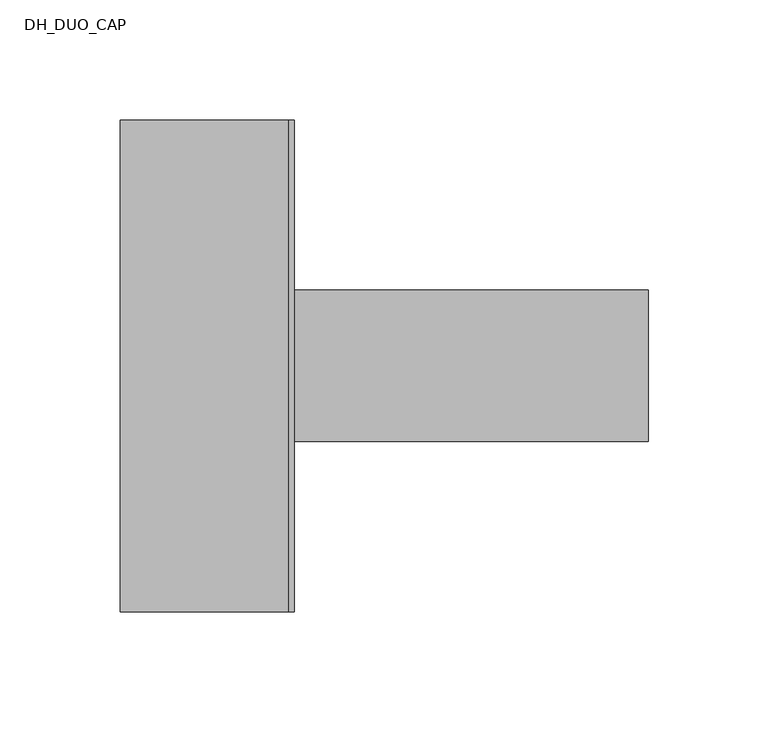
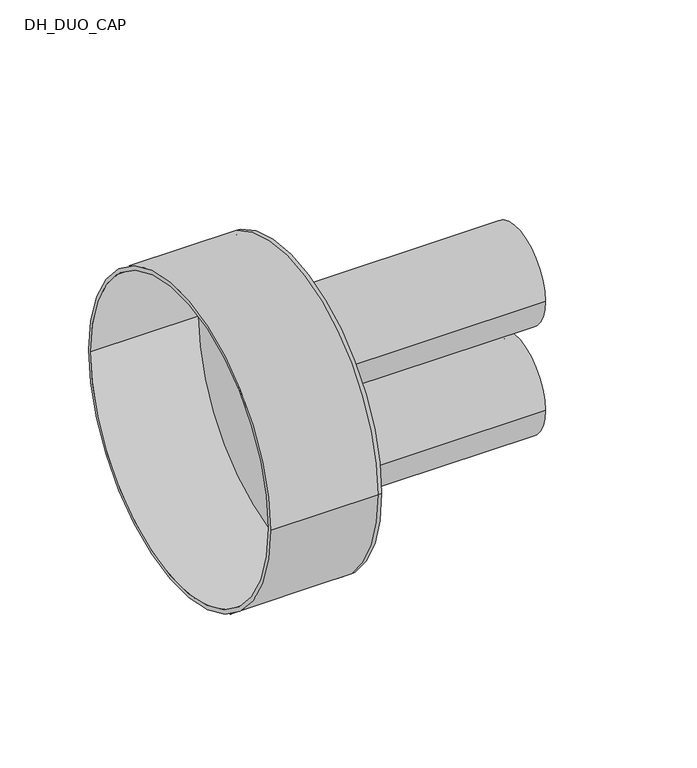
"""IFC4 building model written with IfcOpenShell, lengths in millimetres: pipe fitting geometry, DH_DUO_CAP : RAUVIPEX DUO 11 Heating - Solid Cap."""

from ifc_helpers import new_model, si_unit, point, frame, frame_2d, origin, place, context, project, spatial, polyline, circle_curve, trimmed, segment, composite_curve, outline, extrude, source, transform, mapped, element, save
from ifc_brep_helpers import plane_surface, cylinder_surface, revolved_surface, advanced_brep


def dh_duo_cap_e9755894(model_context):
    return source(origin(), model_context, "Body", "SolidModel", [
        extrude(outline(composite_curve([segment(trimmed(circle_curve(frame_2d((0.0, -37.5)), 31.5), [point((-31.5, -37.5))], [point((31.5, -37.5))], False, "CARTESIAN"), True, "CONTINUOUS"), segment(trimmed(circle_curve(frame_2d((0.0, -37.5)), 31.5), [point((31.5, -37.5))], [point((-31.5, -37.5))], False, "CARTESIAN"), True, "CONTINUOUS")], self_intersect=False), holes=[composite_curve([segment(trimmed(circle_curve(frame_2d((0.0, -37.5)), 25.7), [point((-25.7, -37.5))], [point((25.7, -37.5))], True, "CARTESIAN"), True, "CONTINUOUS"), segment(trimmed(circle_curve(frame_2d((0.0, -37.5)), 25.7), [point((25.7, -37.5))], [point((-25.7, -37.5))], True, "CARTESIAN"), True, "CONTINUOUS")], self_intersect=False)]), frame((0.0, 0.0, 0.0), z_axis=(1.0, 0.0, 0.0), x_axis=(0.0, 1.0, 0.0)), (0.0, 0.0, 1.0), 150.0),
        extrude(outline(composite_curve([segment(trimmed(circle_curve(frame_2d((0.0, 37.5)), 31.5), [point((-31.5, 37.5))], [point((31.5, 37.5))], False, "CARTESIAN"), True, "CONTINUOUS"), segment(trimmed(circle_curve(frame_2d((0.0, 37.5)), 31.5), [point((31.5, 37.5))], [point((-31.5, 37.5))], False, "CARTESIAN"), True, "CONTINUOUS")], self_intersect=False), holes=[composite_curve([segment(trimmed(circle_curve(frame_2d((0.0, 37.5)), 25.7), [point((-25.7, 37.5))], [point((25.7, 37.5))], True, "CARTESIAN"), True, "CONTINUOUS"), segment(trimmed(circle_curve(frame_2d((0.0, 37.5)), 25.7), [point((25.7, 37.5))], [point((-25.7, 37.5))], True, "CARTESIAN"), True, "CONTINUOUS")], self_intersect=False)]), frame((0.0, 0.0, 0.0), z_axis=(1.0, 0.0, 0.0), x_axis=(0.0, 1.0, 0.0)), (0.0, 0.0, 1.0), 150.0),
        advanced_brep(
        [(-70.0, -102.5, 0.0), (-70.0, 102.5, 0.0), (-70.0, -100.0, 0.0), (-70.0, 100.0, 0.0), (0.0, -100.0, 0.0), (0.0, 100.0, 0.0), (0.0, -102.5, 0.0), (0.0, 102.5, 0.0), (0.0, 31.5, 37.5), (0.0, -31.5, 37.5), (0.0, 31.5, -37.5), (0.0, -31.5, -37.5), (2.5, -102.5, 0.0), (2.5, 102.5, 0.0), (2.5, -31.5, 37.5), (2.5, 31.5, 37.5), (2.5, -31.5, -37.5), (2.5, 31.5, -37.5)],
        [
            (0, 1, circle_curve(frame((-70.0, 0.0, 0.0), z_axis=(-1.0, 0.0, 0.0), x_axis=(0.0, 1.0, 0.0)), 102.5)),
            (1, 0, circle_curve(frame((-70.0, 0.0, 0.0), z_axis=(-1.0, 0.0, 0.0), x_axis=(0.0, 1.0, 0.0)), 102.5)),
            (2, 3, circle_curve(frame((-70.0, 0.0, 0.0), z_axis=(1.0, 0.0, 0.0), x_axis=(0.0, 1.0, 0.0)), 100.0)),
            (3, 2, circle_curve(frame((-70.0, 0.0, 0.0), z_axis=(1.0, 0.0, 0.0), x_axis=(0.0, 1.0, 0.0)), 100.0)),
            (2, 4),
            (4, 5, circle_curve(frame((0.0, 0.0, 0.0), z_axis=(1.0, 0.0, 0.0), x_axis=(0.0, 1.0, 0.0)), 100.0)),
            (5, 3),
            (5, 4, circle_curve(frame((0.0, 0.0, 0.0), z_axis=(1.0, 0.0, 0.0), x_axis=(0.0, 1.0, 0.0)), 100.0)),
            (0, 6),
            (6, 7, circle_curve(frame((0.0, 0.0, 0.0), z_axis=(-1.0, 0.0, 0.0), x_axis=(0.0, 1.0, 0.0)), 102.5)),
            (7, 1),
            (7, 6, circle_curve(frame((0.0, 0.0, 0.0), z_axis=(-1.0, 0.0, 0.0), x_axis=(0.0, 1.0, 0.0)), 102.5)),
            (8, 9, circle_curve(frame((0.0, 0.0, 37.5), z_axis=(1.0, 0.0, 0.0), x_axis=(0.0, 1.0, 0.0)), 31.5)),
            (9, 8, circle_curve(frame((0.0, 0.0, 37.5), z_axis=(1.0, 0.0, 0.0), x_axis=(0.0, 1.0, 0.0)), 31.5)),
            (10, 11, circle_curve(frame((0.0, 0.0, -37.5), z_axis=(1.0, 0.0, 0.0), x_axis=(0.0, 1.0, 0.0)), 31.5)),
            (11, 10, circle_curve(frame((0.0, 0.0, -37.5), z_axis=(1.0, 0.0, 0.0), x_axis=(0.0, 1.0, 0.0)), 31.5)),
            (12, 13, circle_curve(frame((2.5, 0.0, 0.0), z_axis=(1.0, 0.0, 0.0), x_axis=(0.0, 1.0, 0.0)), 102.5)),
            (13, 12, circle_curve(frame((2.5, 0.0, 0.0), z_axis=(1.0, 0.0, 0.0), x_axis=(0.0, 1.0, 0.0)), 102.5)),
            (14, 15, circle_curve(frame((2.5, 0.0, 37.5), z_axis=(-1.0, 0.0, 0.0), x_axis=(0.0, 1.0, 0.0)), 31.5)),
            (15, 14, circle_curve(frame((2.5, 0.0, 37.5), z_axis=(-1.0, 0.0, 0.0), x_axis=(0.0, 1.0, 0.0)), 31.5)),
            (16, 17, circle_curve(frame((2.5, 0.0, -37.5), z_axis=(-1.0, 0.0, 0.0), x_axis=(0.0, 1.0, 0.0)), 31.5)),
            (17, 16, circle_curve(frame((2.5, 0.0, -37.5), z_axis=(-1.0, 0.0, 0.0), x_axis=(0.0, 1.0, 0.0)), 31.5)),
            (13, 7),
            (6, 12),
            (8, 15),
            (14, 9),
            (10, 17),
            (16, 11),
        ],
        [
            plane_surface(frame((-70.0, 0.0, 0.0), z_axis=(-1.0, 0.0, 0.0), x_axis=(0.0, 0.0, 1.0))),
            revolved_surface(polyline([(0.0, 100.0, 0.0), (-70.0, 100.0, 0.0)]), (-70.0, 0.0, 0.0), (1.0, 0.0, 0.0)),
            cylinder_surface(frame((-70.0, 0.0, 0.0), z_axis=(-1.0, 0.0, 0.0), x_axis=(0.0, 1.0, 0.0)), 102.5),
            plane_surface(frame((0.0, 0.0, 0.0), z_axis=(-1.0, 0.0, 0.0), x_axis=(0.0, 0.0, 1.0))),
            plane_surface(frame((2.5, 0.0, 0.0), z_axis=(1.0, 0.0, 0.0), x_axis=(0.0, 0.0, 1.0))),
            cylinder_surface(frame((0.0, 0.0, 0.0), z_axis=(-1.0, 0.0, 0.0), x_axis=(0.0, 1.0, 0.0)), 102.5),
            revolved_surface(polyline([(0.0, 31.5, 37.5), (2.5, 31.5, 37.5)]), (0.0, 0.0, 37.5), (-1.0, 0.0, 0.0)),
            revolved_surface(polyline([(0.0, 31.5, -37.5), (2.5, 31.5, -37.5)]), (0.0, 0.0, -37.5), (-1.0, 0.0, 0.0)),
        ],
        [
            (0, [[1, 2], [3, 4]]),
            (1, [[-3, 5, 6, 7]]),
            (1, [[-4, -7, 8, -5]]),
            (2, [[-1, 9, 10, 11]]),
            (2, [[-2, -11, 12, -9]]),
            (3, [[-6, -8], [13, 14], [15, 16]]),
            (4, [[17, 18], [19, 20], [21, 22]]),
            (5, [[-18, 23, -10, 24]]),
            (5, [[-17, -24, -12, -23]]),
            (6, [[25, -19, 26, -13]]),
            (6, [[-25, -14, -26, -20]]),
            (7, [[27, -21, 28, -15]]),
            (7, [[-27, -16, -28, -22]]),
        ],
    ),
    ])


if __name__ == "__main__":
    model = new_model("IFC4")
    model_context = context("Model", 3, world=origin())
    ifc_project = project(units=[si_unit("LENGTHUNIT", "METRE", prefix="MILLI")], contexts=[model_context])
    site = spatial("IfcSite", under=ifc_project)
    building = spatial("IfcBuilding", under=site)
    placement = place(None, origin())
    dh_duo_cap_shape = dh_duo_cap_e9755894(model_context)
    element("IfcPipeFitting", 1, ObjectType="DH_DUO_CAP : RAUVIPEX DUO 11 Heating - Solid Cap", at=placement, inside=building, context=model_context, shape_type="MappedRepresentation", body=[
        mapped(dh_duo_cap_shape, transform((0.0, 0.0, 0.0), x_axis=(1.0, 0.0, 0.0), y_axis=(0.0, 1.0, 0.0), z_axis=(0.0, 0.0, 1.0))),
    ])
    save(model, "model.ifc")
